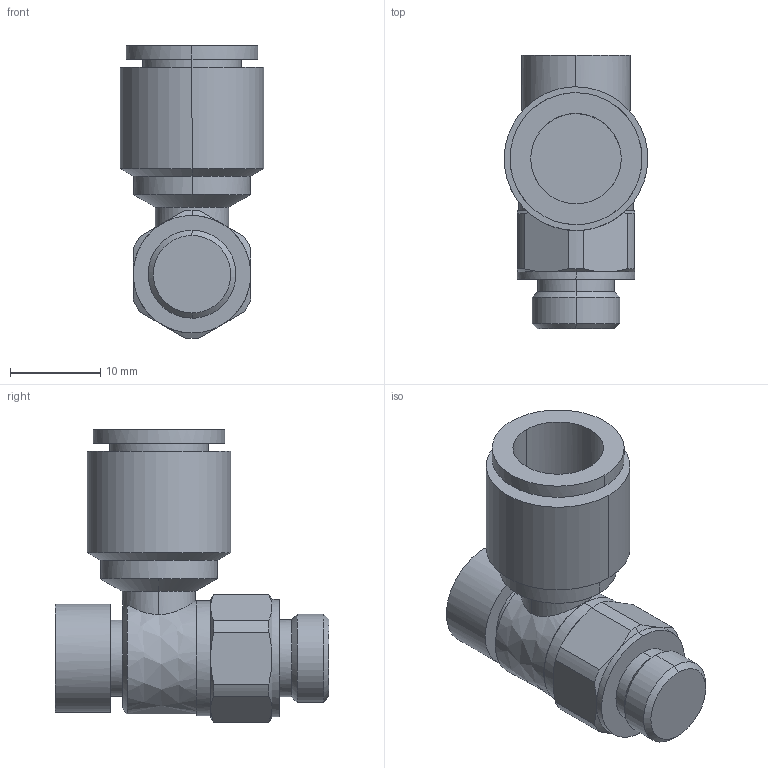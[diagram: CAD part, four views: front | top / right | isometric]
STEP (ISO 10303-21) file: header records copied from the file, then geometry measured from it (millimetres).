
FILE_DESCRIPTION (( 'STEP AP214' ), '1' );
FILE_NAME ('AS2211FC-G01-10A.STEP', '2023-03-08T09:03:36', ( 'Windows User' ), ( 'P R C' ), 'SwSTEP 2.0', 'SolidWorks 2019', '' );
FILE_SCHEMA (( 'AUTOMOTIVE_DESIGN' ));
Length unit declared in the file: millimetre
Products named in the file (1): AS2211FC-G01-10A
Bounding box: 15.89 x 30.3 x 32.4 mm (x, y, z)
Volume: 5372 mm3; surface area: 3276.6 mm2
Topology: 1 solids, 1 shells, 77 faces, 182 edges, 115 vertices
Faces by surface type: bspline 58, plane 19
Entity records: 3086 total; most frequent: CARTESIAN_POINT 1940, ORIENTED_EDGE 364, EDGE_CURVE 182, VERTEX_POINT 115, B_SPLINE_CURVE_WITH_KNOTS 113, EDGE_LOOP 85, FACE_OUTER_BOUND 77, ADVANCED_FACE 77
